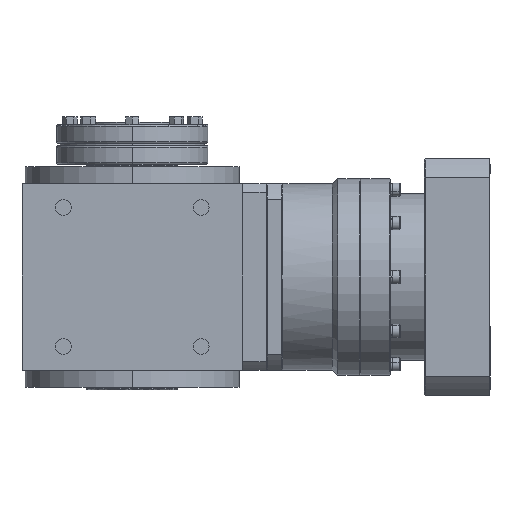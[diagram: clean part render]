
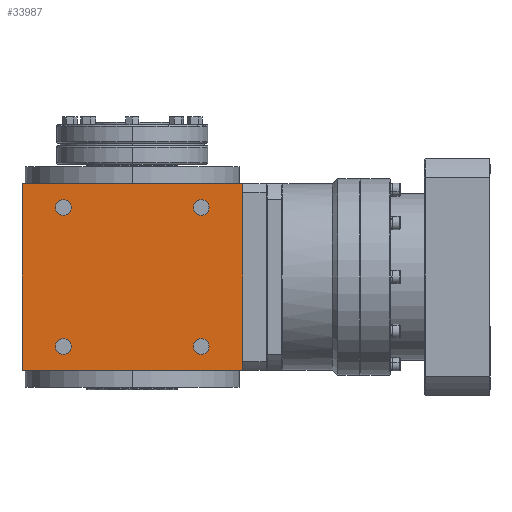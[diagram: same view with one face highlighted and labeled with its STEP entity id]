
A CAD part, left-side view. The second image highlights one B-rep face of the part: STEP entity #33987.
In plain terms, the highlighted planar face has unit normal (-1, 0, 0).
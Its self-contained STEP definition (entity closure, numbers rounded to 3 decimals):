
#35 = ORIENTED_EDGE ( 'NONE', *, *, #22939, .T. ) ;
#181 = VERTEX_POINT ( 'NONE', #33643 ) ;
#1981 = DIRECTION ( 'NONE',  ( 0., 0., 1. ) ) ;
#2299 = CIRCLE ( 'NONE', #28169, 6. ) ;
#2449 = DIRECTION ( 'NONE',  ( 0., 0., 1. ) ) ;
#2686 = ORIENTED_EDGE ( 'NONE', *, *, #38565, .T. ) ;
#3037 = ORIENTED_EDGE ( 'NONE', *, *, #3663, .T. ) ;
#3081 = CARTESIAN_POINT ( 'NONE',  ( -84., -84., -71. ) ) ;
#3663 = EDGE_CURVE ( 'NONE', #20323, #29897, #19208, .T. ) ;
#3772 = EDGE_LOOP ( 'NONE', ( #3037, #35 ) ) ;
#3803 = LINE ( 'NONE', #37205, #9657 ) ;
#3966 = DIRECTION ( 'NONE',  ( 0., 0., 1. ) ) ;
#4483 = ORIENTED_EDGE ( 'NONE', *, *, #7627, .T. ) ;
#4562 = DIRECTION ( 'NONE',  ( 0., 0., 1. ) ) ;
#4805 = ORIENTED_EDGE ( 'NONE', *, *, #8283, .T. ) ;
#4828 = VERTEX_POINT ( 'NONE', #35255 ) ;
#5109 = EDGE_CURVE ( 'NONE', #28220, #11571, #3803, .T. ) ;
#5887 = CARTESIAN_POINT ( 'NONE',  ( -84., 84., -71. ) ) ;
#6561 = DIRECTION ( 'NONE',  ( 0., -1., 0. ) ) ;
#7008 = CIRCLE ( 'NONE', #20913, 6. ) ;
#7196 = EDGE_CURVE ( 'NONE', #29325, #22575, #17758, .T. ) ;
#7361 = AXIS2_PLACEMENT_3D ( 'NONE', #10290, #37757, #4562 ) ;
#7627 = EDGE_CURVE ( 'NONE', #8837, #38963, #7008, .T. ) ;
#8283 = EDGE_CURVE ( 'NONE', #4828, #181, #20975, .T. ) ;
#8564 = DIRECTION ( 'NONE',  ( 0., 0., 1. ) ) ;
#8592 = VERTEX_POINT ( 'NONE', #37282 ) ;
#8657 = DIRECTION ( 'NONE',  ( 0., 0., 1. ) ) ;
#8837 = VERTEX_POINT ( 'NONE', #27161 ) ;
#9435 = FACE_BOUND ( 'NONE', #17742, .T. ) ;
#9657 = VECTOR ( 'NONE', #6561, 1000. ) ;
#9687 = CARTESIAN_POINT ( 'NONE',  ( -84., 52.5, -53. ) ) ;
#10290 = CARTESIAN_POINT ( 'NONE',  ( -84., -52.5, 53. ) ) ;
#11019 = DIRECTION ( 'NONE',  ( 1., 0., 0. ) ) ;
#11040 = ORIENTED_EDGE ( 'NONE', *, *, #22890, .T. ) ;
#11571 = VERTEX_POINT ( 'NONE', #15168 ) ;
#11660 = ORIENTED_EDGE ( 'NONE', *, *, #5109, .F. ) ;
#12022 = PLANE ( 'NONE',  #30207 ) ;
#12155 = ORIENTED_EDGE ( 'NONE', *, *, #16142, .T. ) ;
#12212 = VECTOR ( 'NONE', #30164, 1000. ) ;
#12406 = DIRECTION ( 'NONE',  ( -1., 0., 0. ) ) ;
#13311 = CARTESIAN_POINT ( 'NONE',  ( -84., 52.5, -53. ) ) ;
#13534 = DIRECTION ( 'NONE',  ( 0., 0., 1. ) ) ;
#13721 = EDGE_LOOP ( 'NONE', ( #29603, #11660, #28351, #26040 ) ) ;
#13956 = EDGE_LOOP ( 'NONE', ( #23737, #4483 ) ) ;
#14107 = DIRECTION ( 'NONE',  ( 1., 0., 0. ) ) ;
#14306 = CIRCLE ( 'NONE', #26941, 6. ) ;
#14711 = CARTESIAN_POINT ( 'NONE',  ( -84., -84., -71. ) ) ;
#15168 = CARTESIAN_POINT ( 'NONE',  ( -84., -84., 71. ) ) ;
#15449 = CARTESIAN_POINT ( 'NONE',  ( -84., 52.5, 53. ) ) ;
#15465 = EDGE_CURVE ( 'NONE', #22575, #11571, #26948, .T. ) ;
#16082 = DIRECTION ( 'NONE',  ( 1., 0., 0. ) ) ;
#16142 = EDGE_CURVE ( 'NONE', #181, #4828, #37851, .T. ) ;
#16229 = CIRCLE ( 'NONE', #7361, 6. ) ;
#17035 = DIRECTION ( 'NONE',  ( 1., 0., 0. ) ) ;
#17282 = VERTEX_POINT ( 'NONE', #31273 ) ;
#17707 = DIRECTION ( 'NONE',  ( 1., 0., 0. ) ) ;
#17714 = CARTESIAN_POINT ( 'NONE',  ( -84., 84., -71. ) ) ;
#17742 = EDGE_LOOP ( 'NONE', ( #4805, #12155 ) ) ;
#17758 = LINE ( 'NONE', #33136, #12212 ) ;
#17917 = AXIS2_PLACEMENT_3D ( 'NONE', #37825, #14107, #13534 ) ;
#19208 = CIRCLE ( 'NONE', #17917, 6. ) ;
#20239 = DIRECTION ( 'NONE',  ( 0., 0., 1. ) ) ;
#20323 = VERTEX_POINT ( 'NONE', #28076 ) ;
#20913 = AXIS2_PLACEMENT_3D ( 'NONE', #26380, #17707, #8564 ) ;
#20975 = CIRCLE ( 'NONE', #22863, 6. ) ;
#21102 = CARTESIAN_POINT ( 'NONE',  ( -84., -52.5, 59. ) ) ;
#22571 = CARTESIAN_POINT ( 'NONE',  ( -84., -52.5, -53. ) ) ;
#22575 = VERTEX_POINT ( 'NONE', #3081 ) ;
#22863 = AXIS2_PLACEMENT_3D ( 'NONE', #26250, #11019, #23097 ) ;
#22890 = EDGE_CURVE ( 'NONE', #17282, #8592, #30736, .T. ) ;
#22939 = EDGE_CURVE ( 'NONE', #29897, #20323, #14306, .T. ) ;
#23020 = EDGE_CURVE ( 'NONE', #38963, #8837, #16229, .T. ) ;
#23097 = DIRECTION ( 'NONE',  ( 0., 0., 1. ) ) ;
#23737 = ORIENTED_EDGE ( 'NONE', *, *, #23020, .T. ) ;
#24275 = FACE_BOUND ( 'NONE', #13956, .T. ) ;
#24527 = DIRECTION ( 'NONE',  ( 1., 0., 0. ) ) ;
#26040 = ORIENTED_EDGE ( 'NONE', *, *, #7196, .T. ) ;
#26250 = CARTESIAN_POINT ( 'NONE',  ( -84., -52.5, -53. ) ) ;
#26275 = CARTESIAN_POINT ( 'NONE',  ( -84., 52.5, 47. ) ) ;
#26380 = CARTESIAN_POINT ( 'NONE',  ( -84., -52.5, 53. ) ) ;
#26533 = CARTESIAN_POINT ( 'NONE',  ( -84., 84., -71. ) ) ;
#26855 = FACE_BOUND ( 'NONE', #3772, .T. ) ;
#26941 = AXIS2_PLACEMENT_3D ( 'NONE', #15449, #33433, #3966 ) ;
#26948 = LINE ( 'NONE', #14711, #35291 ) ;
#27161 = CARTESIAN_POINT ( 'NONE',  ( -84., -52.5, 47. ) ) ;
#28076 = CARTESIAN_POINT ( 'NONE',  ( -84., 52.5, 59. ) ) ;
#28169 = AXIS2_PLACEMENT_3D ( 'NONE', #13311, #16082, #28518 ) ;
#28220 = VERTEX_POINT ( 'NONE', #29106 ) ;
#28351 = ORIENTED_EDGE ( 'NONE', *, *, #28352, .F. ) ;
#28352 = EDGE_CURVE ( 'NONE', #29325, #28220, #36014, .T. ) ;
#28518 = DIRECTION ( 'NONE',  ( 0., 0., 1. ) ) ;
#29106 = CARTESIAN_POINT ( 'NONE',  ( -84., 84., 71. ) ) ;
#29325 = VERTEX_POINT ( 'NONE', #17714 ) ;
#29603 = ORIENTED_EDGE ( 'NONE', *, *, #15465, .T. ) ;
#29897 = VERTEX_POINT ( 'NONE', #26275 ) ;
#30164 = DIRECTION ( 'NONE',  ( 0., -1., 0. ) ) ;
#30207 = AXIS2_PLACEMENT_3D ( 'NONE', #5887, #12406, #8657 ) ;
#30410 = FACE_OUTER_BOUND ( 'NONE', #13721, .T. ) ;
#30736 = CIRCLE ( 'NONE', #38930, 6. ) ;
#30929 = AXIS2_PLACEMENT_3D ( 'NONE', #22571, #17035, #1981 ) ;
#31177 = EDGE_LOOP ( 'NONE', ( #2686, #11040 ) ) ;
#31273 = CARTESIAN_POINT ( 'NONE',  ( -84., 52.5, -59. ) ) ;
#31937 = VECTOR ( 'NONE', #20239, 1000. ) ;
#33136 = CARTESIAN_POINT ( 'NONE',  ( -84., 84., -71. ) ) ;
#33433 = DIRECTION ( 'NONE',  ( 1., 0., 0. ) ) ;
#33643 = CARTESIAN_POINT ( 'NONE',  ( -84., -52.5, -59. ) ) ;
#33987 = ADVANCED_FACE ( 'NONE', ( #24275, #36522, #9435, #26855, #30410 ), #12022, .T. ) ;
#35255 = CARTESIAN_POINT ( 'NONE',  ( -84., -52.5, -47. ) ) ;
#35291 = VECTOR ( 'NONE', #2449, 1000. ) ;
#36014 = LINE ( 'NONE', #26533, #31937 ) ;
#36522 = FACE_BOUND ( 'NONE', #31177, .T. ) ;
#36577 = DIRECTION ( 'NONE',  ( 0., 0., 1. ) ) ;
#37205 = CARTESIAN_POINT ( 'NONE',  ( -84., 0., 71. ) ) ;
#37282 = CARTESIAN_POINT ( 'NONE',  ( -84., 52.5, -47. ) ) ;
#37757 = DIRECTION ( 'NONE',  ( 1., 0., 0. ) ) ;
#37825 = CARTESIAN_POINT ( 'NONE',  ( -84., 52.5, 53. ) ) ;
#37851 = CIRCLE ( 'NONE', #30929, 6. ) ;
#38565 = EDGE_CURVE ( 'NONE', #8592, #17282, #2299, .T. ) ;
#38930 = AXIS2_PLACEMENT_3D ( 'NONE', #9687, #24527, #36577 ) ;
#38963 = VERTEX_POINT ( 'NONE', #21102 ) ;
